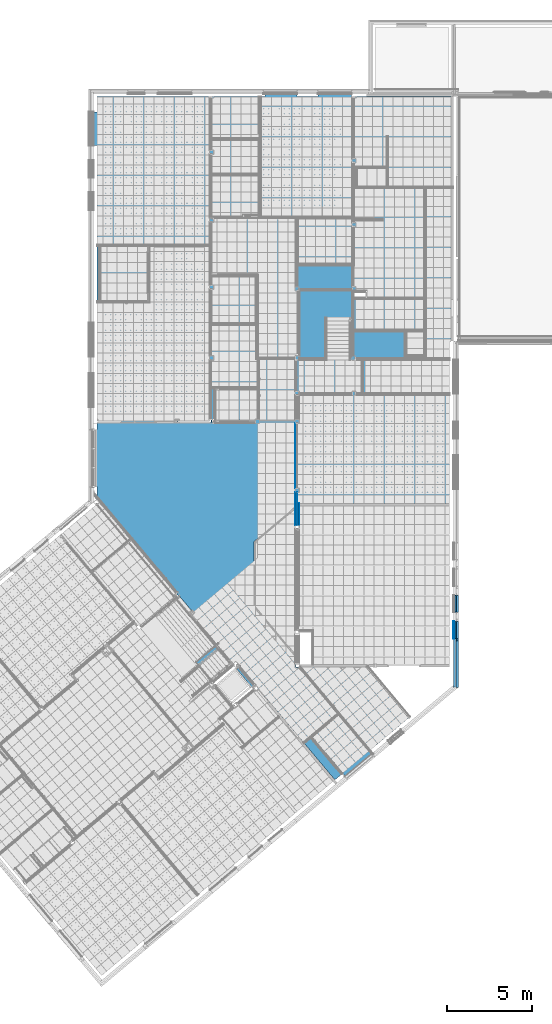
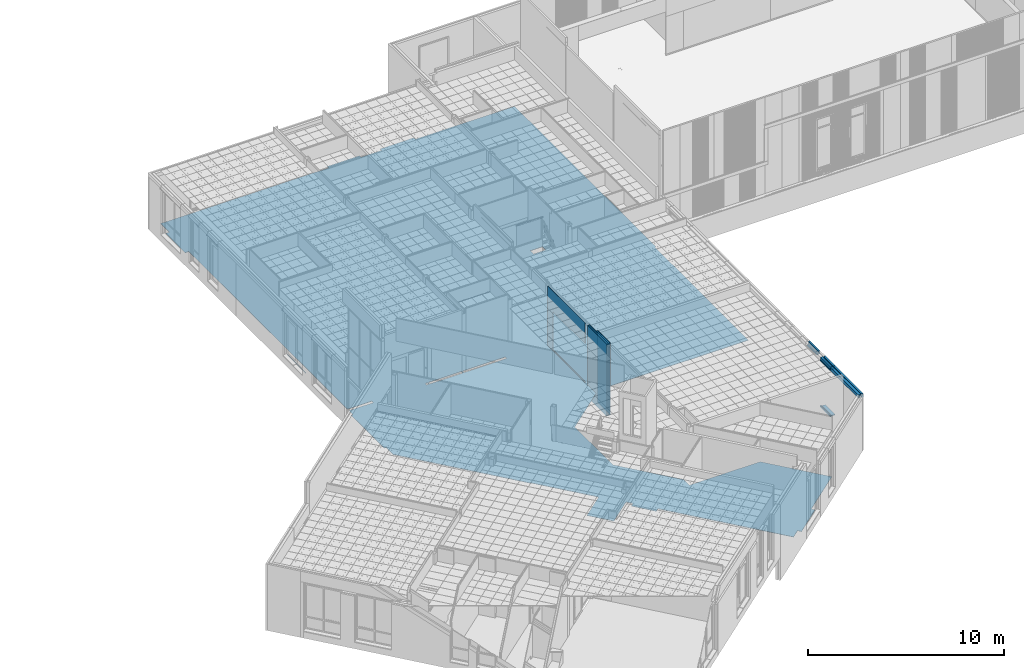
# One storey, part 73 of 338: 24 building element parts, 2 openings, 8 elements without a shape of their own.
"""IFC2X3 building model written with IfcOpenShell, lengths in millimetres."""

from ifc_helpers import new_model, entity, si_unit, converted_unit, derived_unit, money_unit, direction, frame, origin_with_axes, place, context, subcontext, project, spatial, faceted_brep, material, type_object, element, aggregate, save


model = new_model("IFC2X3")

# Units and contexts
model_context = context("Model", 3, precision=0.01, world=origin_with_axes(), true_north=direction((0.0, 1.0)))
plan_context = context("Plan", 3, precision=0.01, world=origin_with_axes(), true_north=direction((0.0, 1.0)))
body_context = subcontext(model_context, "Body", "Model", "MODEL_VIEW")
ifc_project = project(units=[si_unit("LENGTHUNIT", "METRE", prefix="MILLI"), si_unit("AREAUNIT", "SQUARE_METRE"), si_unit("VOLUMEUNIT", "CUBIC_METRE"), converted_unit("PLANEANGLEUNIT", "DEGREE", entity("IfcPlaneAngleMeasure", 0.0174532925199), si_unit("PLANEANGLEUNIT", "RADIAN"), dimensions=[0, 0, 0, 0, 0, 0, 0]), money_unit("EUR"), converted_unit("TIMEUNIT", "Year", entity("IfcTimeMeasure", 31556926.0), si_unit("TIMEUNIT", "SECOND"), dimensions=[0, 0, 1, 0, 0, 0, 0]), si_unit("MASSUNIT", "GRAM", prefix="KILO"), si_unit("THERMODYNAMICTEMPERATUREUNIT", "DEGREE_CELSIUS"), si_unit("LUMINOUSINTENSITYUNIT", "LUMEN"), si_unit("ENERGYUNIT", "JOULE", prefix="MEGA"), derived_unit("THERMALCONDUCTANCEUNIT", [(si_unit("POWERUNIT", "WATT"), 1), (si_unit("LENGTHUNIT", "METRE"), -1), (si_unit("THERMODYNAMICTEMPERATUREUNIT", "KELVIN"), -1)]), derived_unit("SPECIFICHEATCAPACITYUNIT", [(si_unit("ENERGYUNIT", "JOULE"), 1), (si_unit("MASSUNIT", "GRAM", prefix="KILO"), -1), (si_unit("THERMODYNAMICTEMPERATUREUNIT", "KELVIN"), -1)]), derived_unit("MASSDENSITYUNIT", [(si_unit("MASSUNIT", "GRAM", prefix="KILO"), 1), (si_unit("VOLUMEUNIT", "CUBIC_METRE"), -1)])], contexts=[model_context, plan_context])

# Site, building, storey
site_placement = place(None, origin_with_axes())
site = spatial("IfcSite", under=ifc_project, at=site_placement, Name="Fortuinstraat Woensdrecht", CompositionType="ELEMENT")
building_placement = place(site_placement, origin_with_axes())
building = spatial("IfcBuilding", under=site, at=building_placement, Name="IKC Fortuna", CompositionType="ELEMENT")
storey_placement = place(building_placement, origin_with_axes())
storey = spatial("IfcBuildingStorey", under=building, at=storey_placement, Name="00 begane grond", CompositionType="ELEMENT", Elevation=0.0)

# Covering, building element part
covering_type_1 = type_object("IfcCoveringType", Name="43 Vloerafwerking 90", PredefinedType="FLOORING")
covering_1_placement = place(storey_placement, frame((13809.4349765, 22304.4319404, 0.0), z_axis=(0.0, 0.0, 1.0), x_axis=(1.0, 0.0, 0.0)))
covering_1 = element("IfcCovering", 1, at=covering_1_placement, inside=storey, type_object=covering_type_1, Name="43_Vloerafwerking_Vloerafwerking", PredefinedType="FLOORING")
ifc_material_1 = material(Name="Isolatie - XPS zwevende dekvloer")
building_element_part_1_placement = place(covering_1_placement, origin_with_axes())
building_element_part_1 = element("IfcBuildingElementPart", 2, at=building_element_part_1_placement, material=ifc_material_1, Name="Isolatie - XPS zwevende dekvloer", context=body_context, shape_type="Brep", body=[
    faceted_brep([(-2.19202433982e-09, -6197.13531215, -90.0), (1435.99999998, -6197.13531215, -90.0), (1435.99999998, -6047.13531215, -90.0), (-2.99316127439e-09, -6047.13531215, -90.0), (-2.35544916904e-08, -2200.0, -90.0), (0.0, 0.0, -90.0), (0.0, 4487.8571149, -90.0), (0.0, 6687.8571149, -90.0), (0.0, 9987.8571149, -90.0), (0.0, 10163.8646686, -90.0), (-214.0, 10163.8646686, -90.0), (-214.0, 12149.8646686, -90.0), (0.0, 12149.8646686, -90.0), (0.0, 12186.5169343, -90.0), (-5.68434188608e-10, 13041.8646879, -90.0), (9904.99999998, 13041.8646879, -90.0), (9904.99999998, 13191.8646878, -90.0), (11803.9999401, 13191.8646879, -90.0), (11803.9999401, 13041.8646879, -90.0), (12105.0, 13041.8646879, -90.0), (12820.0, 13041.8646879, -90.0), (13027.9999569, 13041.8646879, -90.0), (13027.9999569, 13191.8646879, -90.0), (15010.0, 13191.8646878, -90.0), (15010.0, 13041.8646879, -90.0), (20873.9920806, 13041.8646879, -90.0), (20873.9920806, -1392.13531213, -90.0), (20809.9920806, -1392.13531213, -90.0), (20809.9920806, -1436.13531213, -90.0), (20809.9920806, -10962.1353121, -90.0), (11813.6, -10962.1353121, -90.0), (11813.6, -11076.1763067, -90.0), (9261.72474235, -13217.4538942, -90.0), (9261.72474235, -17102.6368853, -90.0), (11734.7717252, -20049.8995118, -90.0), (11734.6923271, -20626.8332648, -90.0), (11911.0, -20626.8462169, -90.0), (11911.0, -20627.1353121, -90.0), (15911.5110293, -20627.1353121, -90.0), (18414.92724, -23610.5953702, -90.0), (16071.7931354, -25576.7183331, -90.0), (16062.60059, -25584.4317946, -90.0), (16200.1571385, -25748.3653054, -90.0), (14629.7662337, -27066.0797344, -90.0), (14492.2096852, -26902.1462236, -90.0), (14483.0171497, -26909.8596767, -90.0), (14032.6164397, -27287.7907464, -90.0), (9296.55733488, -21643.5752935, -90.0), (9112.70480883, -21797.8468922, -90.0), (8237.22471445, -20754.4971884, -90.0), (8421.0768867, -20600.2258866, -90.0), (8183.27030727, -20316.8114787, -90.0), (8137.25555115, -20355.4214133, -90.0), (8133.70112309, -20351.1852979, -90.0), (6800.82062201, -21469.5749881, -90.0), (5857.84999487, -20345.7863555, -90.0), (7190.74526344, -19227.3842742, -90.0), (4810.99256974, -16391.2297651, -90.0), (4789.90741899, -16408.9218352, -90.0), (0.0, -10700.3801197, -90.0), (-2.35544916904e-08, -9994.9213508, -90.0), (-2.35544916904e-08, -9973.18777013, -90.0), (-106.0, -9973.18777013, -90.0), (-106.0, -6607.15512454, -90.0), (0.0, -6607.15512454, -90.0), (15842.5, 1180.08160797, -90.0), (15842.5, 1500.36468787, -90.0), (15142.5, 1500.36468787, -90.0), (15142.5, 1180.08160797, -90.0), (4710.31885377, -6197.13531215, -90.0), (4710.31885377, -6047.13531215, -90.0), (4580.31885377, -6047.13531215, -90.0), (4580.31885377, -6197.13531215, -90.0), (4755.31885377, -6047.13531215, -90.0), (4755.31885377, -6197.13531215, -90.0), (6729.99999998, -6197.13531215, -90.0), (6729.99999998, -6047.13531215, -90.0), (9305.99999998, -6047.13531215, -90.0), (6789.99999998, -6047.13531215, -90.0), (6789.99999998, -6197.13531215, -90.0), (9305.99999998, -6197.13531215, -90.0), (1435.99999998, -6197.13531215, -70.0), (-2.19202433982e-09, -6197.13531215, -70.0), (1435.99999998, -6047.13531215, -70.0), (-2.99316127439e-09, -6047.13531215, -70.0), (-2.35544916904e-08, -2200.0, -70.0), (0.0, 0.0, -70.0), (0.0, 4487.8571149, -70.0), (0.0, 6687.8571149, -70.0), (0.0, 9987.8571149, -70.0), (0.0, 10163.8646686, -70.0), (-214.0, 10163.8646686, -70.0), (-214.0, 12149.8646686, -70.0), (0.0, 12149.8646686, -70.0), (0.0, 12186.5169343, -70.0), (-5.68434188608e-10, 13041.8646879, -70.0), (9904.99999998, 13041.8646879, -70.0), (9904.99999998, 13191.8646878, -70.0), (11803.9999401, 13191.8646879, -70.0), (11803.9999401, 13041.8646879, -70.0), (12105.0, 13041.8646879, -70.0), (12820.0, 13041.8646879, -70.0), (13027.9999569, 13041.8646879, -70.0), (13027.9999569, 13191.8646879, -70.0), (15010.0, 13191.8646878, -70.0), (15010.0, 13041.8646879, -70.0), (20873.9920806, 13041.8646879, -70.0), (20873.9920806, -1392.13531213, -70.0), (20809.9920806, -1392.13531213, -70.0), (20809.9920806, -1436.13531213, -70.0), (20809.9920806, -10962.1353121, -70.0), (11813.6, -10962.1353121, -70.0), (11813.6, -11076.1763067, -70.0), (9261.72474235, -13217.4538942, -70.0), (9261.72474235, -17102.6368853, -70.0), (11734.7717252, -20049.8995118, -70.0), (11734.6923271, -20626.8332648, -70.0), (11911.0, -20626.8462169, -70.0), (11911.0, -20627.1353121, -70.0), (15911.5110293, -20627.1353121, -70.0), (18414.92724, -23610.5953702, -70.0), (16071.7931354, -25576.7183331, -70.0), (16062.60059, -25584.4317946, -70.0), (16200.1571385, -25748.3653054, -70.0), (14629.7662337, -27066.0797344, -70.0), (14492.2096852, -26902.1462236, -70.0), (14483.0171497, -26909.8596767, -70.0), (14032.6164397, -27287.7907464, -70.0), (9296.55733488, -21643.5752935, -70.0), (9112.70480883, -21797.8468922, -70.0), (8237.22471445, -20754.4971884, -70.0), (8421.0768867, -20600.2258866, -70.0), (8183.27030727, -20316.8114787, -70.0), (8137.25555115, -20355.4214133, -70.0), (8133.70112309, -20351.1852979, -70.0), (6800.82062201, -21469.5749881, -70.0), (5857.84999487, -20345.7863555, -70.0), (7190.74526344, -19227.3842742, -70.0), (4810.99256974, -16391.2297651, -70.0), (4789.90741899, -16408.9218352, -70.0), (0.0, -10700.3801197, -70.0), (-2.35544916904e-08, -9994.9213508, -70.0), (-2.35544916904e-08, -9973.18777013, -70.0), (-106.0, -9973.18777013, -70.0), (-106.0, -6607.15512454, -70.0), (0.0, -6607.15512454, -70.0), (15842.5, 1180.08160797, -70.0), (15842.5, 1500.36468787, -70.0), (15142.5, 1500.36468787, -70.0), (15142.5, 1180.08160797, -70.0), (4710.31885377, -6047.13531215, -70.0), (4710.31885377, -6197.13531215, -70.0), (4580.31885377, -6047.13531215, -70.0), (4580.31885377, -6197.13531215, -70.0), (4755.31885377, -6197.13531215, -70.0), (4755.31885377, -6047.13531215, -70.0), (6729.99999998, -6197.13531215, -70.0), (6729.99999998, -6047.13531215, -70.0), (6789.99999998, -6047.13531215, -70.0), (9305.99999998, -6047.13531215, -70.0), (6789.99999998, -6197.13531215, -70.0), (9305.99999998, -6197.13531215, -70.0)], [[[0, 1, 2, 3, 4, 5, 6, 7, 8, 9, 10, 11, 12, 13, 14, 15, 16, 17, 18, 19, 20, 21, 22, 23, 24, 25, 26, 27, 28, 29, 30, 31, 32, 33, 34, 35, 36, 37, 38, 39, 40, 41, 42, 43, 44, 45, 46, 47, 48, 49, 50, 51, 52, 53, 54, 55, 56, 57, 58, 59, 60, 61, 62, 63, 64], [65, 66, 67, 68], [69, 70, 71, 72], [73, 74, 75, 76], [77, 78, 79, 80]], [[81, 1, 0, 82]], [[83, 2, 1, 81]], [[84, 3, 2, 83]], [[84, 85, 4, 3]], [[86, 5, 4, 85]], [[86, 87, 6, 5]], [[88, 7, 6, 87]], [[8, 7, 88, 89]], [[90, 9, 8, 89]], [[91, 10, 9, 90]], [[11, 10, 91, 92]], [[93, 12, 11, 92]], [[94, 13, 12, 93]], [[94, 95, 14, 13]], [[15, 14, 95, 96]], [[16, 15, 96, 97]], [[17, 16, 97, 98]], [[98, 99, 18, 17]], [[100, 19, 18, 99]], [[100, 101, 20, 19]], [[102, 21, 20, 101]], [[103, 22, 21, 102]], [[103, 104, 23, 22]], [[24, 23, 104, 105]], [[25, 24, 105, 106]], [[26, 25, 106, 107]], [[107, 108, 27, 26]], [[109, 28, 27, 108]], [[109, 110, 29, 28]], [[30, 29, 110, 111]], [[31, 30, 111, 112]], [[32, 31, 112, 113]], [[33, 32, 113, 114]], [[34, 33, 114, 115]], [[35, 34, 115, 116]], [[36, 35, 116, 117]], [[117, 118, 37, 36]], [[119, 38, 37, 118]], [[119, 120, 39, 38]], [[40, 39, 120, 121]], [[121, 122, 41, 40]], [[123, 42, 41, 122]], [[123, 124, 43, 42]], [[124, 125, 44, 43]], [[126, 45, 44, 125]], [[126, 127, 46, 45]], [[47, 46, 127, 128]], [[48, 47, 128, 129]], [[49, 48, 129, 130]], [[50, 49, 130, 131]], [[51, 50, 131, 132]], [[52, 51, 132, 133]], [[53, 52, 133, 134]], [[54, 53, 134, 135]], [[135, 136, 55, 54]], [[136, 137, 56, 55]], [[57, 56, 137, 138]], [[58, 57, 138, 139]], [[59, 58, 139, 140]], [[60, 59, 140, 141]], [[142, 61, 60, 141]], [[143, 62, 61, 142]], [[143, 144, 63, 62]], [[64, 63, 144, 145]], [[0, 64, 145, 82]], [[66, 65, 146, 147]], [[67, 66, 147, 148]], [[68, 67, 148, 149]], [[65, 68, 149, 146]], [[150, 70, 69, 151]], [[152, 71, 70, 150]], [[153, 72, 71, 152]], [[151, 69, 72, 153]], [[154, 74, 73, 155]], [[156, 75, 74, 154]], [[157, 76, 75, 156]], [[155, 73, 76, 157]], [[158, 78, 77, 159]], [[160, 79, 78, 158]], [[161, 80, 79, 160]], [[159, 77, 80, 161]], [[85, 84, 83, 81, 82, 145, 144, 143, 142, 141, 140, 139, 138, 137, 136, 135, 134, 133, 132, 131, 130, 129, 128, 127, 126, 125, 124, 123, 122, 121, 120, 119, 118, 117, 116, 115, 114, 113, 112, 111, 110, 109, 108, 107, 106, 105, 104, 103, 102, 101, 100, 99, 98, 97, 96, 95, 94, 93, 92, 91, 90, 89, 88, 87, 86], [146, 149, 148, 147], [152, 150, 151, 153], [155, 157, 156, 154], [158, 159, 161, 160]]]),
    faceted_brep([(-247.014541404, -292.155239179, -90.0), (-247.014541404, -292.155239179, -75.0), (-223.999719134, -292.155239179, -75.0), (-213.999718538, -292.155239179, -75.0), (-214.0, -292.155239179, -90.0), (-247.014541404, -2200.0, -75.0), (-247.014541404, -2200.0, -90.0), (-223.999718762, -2200.0, -75.0), (-213.999718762, -2200.0, -75.0), (-214.000000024, -2200.0, -90.0)], [[[0, 1, 2, 3, 4]], [[5, 1, 0, 6]], [[7, 2, 1, 5]], [[8, 3, 2, 7]], [[4, 3, 8, 9]], [[4, 9, 6, 0]], [[8, 7, 5, 6, 9]]]),
])
aggregate(covering_1, [building_element_part_1])

# Wall, openings, building element part
wall_type_1 = type_object("IfcWallType", Name="MS125 2.75.2A 125", PredefinedType="NOTDEFINED")
wall_1_placement = place(storey_placement, frame((25497.9349765, 16059.7966283, -90.0), z_axis=(0.0, 0.0, 1.0), x_axis=(0.0, -1.0, 0.0)))
wall_1 = element("IfcWall", 3, at=wall_1_placement, inside=storey, type_object=wall_type_1, Name="22_Wand_Binnenwand")
opening_1_placement = place(wall_1_placement, frame((927.5, 0.0, 90.0), z_axis=(0.0, 0.0, 1.0), x_axis=(1.0, 0.0, 0.0)))
element("IfcOpeningElement", 4, at=opening_1_placement, cuts=wall_1, Name="32_Raam_h.11", context=body_context, shape_type="Brep", body=[
    faceted_brep([(-407.5, 11.0, 0.0), (-407.5, 11.0, 2367.0), (-407.5, 250.0, 2367.0), (-407.5, 250.0, 0.0), (407.5, 11.0, 0.0), (407.5, 11.0, 2367.0), (407.5, 250.0, 2367.0), (407.5, 250.0, 0.0)], [[[0, 1, 2, 3]], [[0, 4, 5, 1]], [[1, 5, 6, 2]], [[3, 2, 6, 7]], [[4, 0, 3, 7]], [[5, 4, 7, 6]]]),
    faceted_brep([(-407.5, 11.0, 2367.0), (-407.5, 11.0, 0.0), (-407.5, -125.0, 0.0), (-407.5, -125.0, 2367.0), (407.5, 11.0, 2367.0), (407.5, 11.0, 0.0), (407.5, -125.0, 0.0), (407.5, -125.0, 2367.0)], [[[0, 1, 2, 3]], [[0, 4, 5, 1]], [[1, 5, 6, 2]], [[3, 2, 6, 7]], [[4, 0, 3, 7]], [[5, 4, 7, 6]]]),
])
opening_2_placement = place(wall_1_placement, frame((2577.5, 0.0, 90.0), z_axis=(0.0, 0.0, 1.0), x_axis=(1.0, 0.0, 0.0)))
element("IfcOpeningElement", 5, at=opening_2_placement, cuts=wall_1, Name="32_Deur_h.03", context=body_context, shape_type="Brep", body=[
    faceted_brep([(1242.5, 125.0, 0.0), (1242.5, 125.0, 2367.0), (1242.5, -250.0, 2367.0), (1242.5, -250.0, 0.0), (-1242.5, 125.0, 0.0), (-1242.5, 125.0, 2367.0), (-1242.5, -250.0, 2367.0), (-1242.5, -250.0, 0.0)], [[[0, 1, 2, 3]], [[0, 4, 5, 1]], [[1, 5, 6, 2]], [[3, 2, 6, 7]], [[4, 0, 3, 7]], [[5, 4, 7, 6]]]),
])
ifc_material_2 = material(Name="Gipsplaat")
building_element_part_2_placement = place(wall_1_placement, origin_with_axes())
building_element_part_2 = element("IfcBuildingElementPart", 6, at=building_element_part_2_placement, material=ifc_material_2, Name="Gipsplaat", context=body_context, shape_type="Brep", body=[
    faceted_brep([(1335.0, 0.0, 90.0), (3820.0, 0.0, 90.0), (3820.0, 12.5, 90.0), (1335.0, 12.5, 90.0), (520.0, 12.5, 90.0), (520.0, 0.0, 90.0), (1335.0, 0.0, 2457.0), (3820.0, 0.0, 2457.0), (3820.0, 0.0, 3740.0), (0.0, 0.0, 3740.0), (0.0, 0.0, 0.0), (3820.0, 0.0, 0.0), (520.0, 0.0, 2457.0), (3820.0, 12.5, 0.0), (3820.0, 12.5, 2457.0), (1335.0, 12.5, 2457.0), (520.0, 12.5, 2457.0), (0.0, 12.5, 0.0), (0.0, 12.5, 3740.0), (3820.0, 12.5, 3740.0)], [[[0, 1, 2, 3, 4, 5]], [[6, 7, 8, 9, 10, 11, 1, 0, 5, 12]], [[2, 1, 11, 13]], [[14, 15, 16, 4, 3, 2, 13, 17, 18, 19]], [[4, 16, 12, 5]], [[15, 14, 7, 6, 12, 16]], [[7, 14, 19, 8]], [[9, 8, 19, 18]], [[10, 9, 18, 17]], [[17, 13, 11, 10]]]),
])
aggregate(wall_1, [building_element_part_2])

# Wall, building element parts
wall_2_placement = place(storey_placement, frame((25497.9349765, 11994.7966283, -835.0), z_axis=(0.0, 0.0, 1.0), x_axis=(0.0, -1.0, 0.0)))
wall_2 = element("IfcWall", 7, at=wall_2_placement, inside=storey, type_object=wall_type_1, Name="22_Wand_Binnenwand")
building_element_part_3_placement = place(wall_2_placement, origin_with_axes())
building_element_part_3 = element("IfcBuildingElementPart", 8, at=building_element_part_3_placement, material=ifc_material_2, Name="Gipsplaat", context=body_context, shape_type="Brep", body=[
    faceted_brep([(1935.0, 112.5, 4485.0), (1935.0, 125.0, 4485.0), (0.0, 125.0, 4485.0), (0.0, 112.5, 4485.0), (1935.0, 112.5, 0.0), (1935.0, 125.0, 0.0), (0.0, 125.0, 0.0), (0.0, 112.5, 0.0)], [[[0, 1, 2, 3]], [[0, 4, 5, 1]], [[1, 5, 6, 2]], [[3, 2, 6, 7]], [[4, 0, 3, 7]], [[5, 4, 7, 6]]]),
])
building_element_part_4_placement = place(wall_2_placement, origin_with_axes())
building_element_part_4 = element("IfcBuildingElementPart", 9, at=building_element_part_4_placement, material=ifc_material_2, Name="Gipsplaat", context=body_context, shape_type="Brep", body=[
    faceted_brep([(1935.0, 100.0, 4485.0), (1935.0, 112.5, 4485.0), (0.0, 112.5, 4485.0), (0.0, 100.0, 4485.0), (1935.0, 100.0, 0.0), (1935.0, 112.5, 0.0), (0.0, 112.5, 0.0), (0.0, 100.0, 0.0)], [[[0, 1, 2, 3]], [[0, 4, 5, 1]], [[1, 5, 6, 2]], [[3, 2, 6, 7]], [[4, 0, 3, 7]], [[5, 4, 7, 6]]]),
])
ifc_material_3 = material(Name="Isolatie - Steenwol LSW")
building_element_part_5_placement = place(wall_2_placement, origin_with_axes())
building_element_part_5 = element("IfcBuildingElementPart", 10, at=building_element_part_5_placement, material=ifc_material_3, Name="Isolatie - Steenwol LSW", context=body_context, shape_type="Brep", body=[
    faceted_brep([(1935.0, 25.0, 4485.0), (1935.0, 100.0, 4485.0), (0.0, 100.0, 4485.0), (0.0, 25.0, 4485.0), (1935.0, 25.0, 0.0), (1935.0, 100.0, 0.0), (0.0, 100.0, 0.0), (0.0, 25.0, 0.0)], [[[0, 1, 2, 3]], [[0, 4, 5, 1]], [[1, 5, 6, 2]], [[3, 2, 6, 7]], [[4, 0, 3, 7]], [[5, 4, 7, 6]]]),
])
building_element_part_6_placement = place(wall_2_placement, origin_with_axes())
building_element_part_6 = element("IfcBuildingElementPart", 11, at=building_element_part_6_placement, material=ifc_material_2, Name="Gipsplaat", context=body_context, shape_type="Brep", body=[
    faceted_brep([(1935.0, 12.5, 4485.0), (1935.0, 25.0, 4485.0), (0.0, 25.0, 4485.0), (0.0, 12.5, 4485.0), (1935.0, 12.5, 0.0), (1935.0, 25.0, 0.0), (0.0, 25.0, 0.0), (0.0, 12.5, 0.0)], [[[0, 1, 2, 3]], [[0, 4, 5, 1]], [[1, 5, 6, 2]], [[3, 2, 6, 7]], [[4, 0, 3, 7]], [[5, 4, 7, 6]]]),
])
building_element_part_7_placement = place(wall_2_placement, origin_with_axes())
building_element_part_7 = element("IfcBuildingElementPart", 12, at=building_element_part_7_placement, material=ifc_material_2, Name="Gipsplaat", context=body_context, shape_type="Brep", body=[
    faceted_brep([(1935.0, 0.0, 4485.0), (1935.0, 12.5, 4485.0), (0.0, 12.5, 4485.0), (0.0, 0.0, 4485.0), (1935.0, 0.0, 0.0), (1935.0, 12.5, 0.0), (0.0, 12.5, 0.0), (0.0, 0.0, 0.0)], [[[0, 1, 2, 3]], [[0, 4, 5, 1]], [[1, 5, 6, 2]], [[3, 2, 6, 7]], [[4, 0, 3, 7]], [[5, 4, 7, 6]]]),
])
aggregate(wall_2, [building_element_part_3, building_element_part_4, building_element_part_5, building_element_part_6, building_element_part_7])

# Covering, building element parts
covering_type_2 = type_object("IfcCoveringType", Name="41 Latei MW rollaag 280 x 227", PredefinedType="NOTDEFINED")
covering_2_placement = place(storey_placement, frame((34973.4270641, 4373.29662827, 2800.0), z_axis=(0.0, 0.0, 1.0), x_axis=(0.0, -1.0, 0.0)))
covering_2 = element("IfcCovering", 13, at=covering_2_placement, inside=storey, type_object=covering_type_2, Name="41_Afwerking_Latei + rollaag", PredefinedType="NOTDEFINED")
ifc_material_4 = material(Name="Metaal - Staal C")
building_element_part_8_placement = place(covering_2_placement, origin_with_axes())
building_element_part_8 = element("IfcBuildingElementPart", 14, at=building_element_part_8_placement, material=ifc_material_4, Name="Metaal - Staal C", context=body_context, shape_type="Brep", body=[
    faceted_brep([(1010.0, 135.215535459, -8.0), (1010.0, 115.215535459, -4.0), (0.0, 115.215535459, -4.0), (0.0, 135.215535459, -8.0), (1010.0, 136.0, -4.07767729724), (1010.0, 115.609685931, 0.0), (1010.0, 40.0, 0.0), (1010.0, 37.1715728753, 1.17157287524), (1010.0, 36.0000000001, 3.99999999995), (1010.0, 36.0000000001, 106.530733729), (1010.0, 20.8284271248, 121.828427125), (1010.0, 18.0000000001, 119.0), (1010.0, 32.0, 105.0), (1010.0, 32.0, 4.0), (1010.0, 32.0, 0.0), (1010.0, 33.1715728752, -2.82842712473), (1010.0, 36.0, -4.0), (0.0, 36.0, -4.0), (0.0, 33.1715728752, -2.82842712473), (0.0, 32.0, 0.0), (0.0, 32.0, 4.0), (0.0, 32.0, 105.0), (0.0, 18.0000000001, 119.0), (0.0, 20.8284271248, 121.828427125), (0.0, 36.0000000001, 106.530733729), (0.0, 36.0000000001, 3.99999999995), (0.0, 37.1715728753, 1.17157287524), (0.0, 40.0, 0.0), (0.0, 115.609685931, 0.0), (0.0, 136.0, -4.07767729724)], [[[0, 1, 2, 3]], [[0, 4, 5, 6, 7, 8, 9, 10, 11, 12, 13, 14, 15, 16, 1]], [[1, 16, 17, 2]], [[3, 2, 17, 18, 19, 20, 21, 22, 23, 24, 25, 26, 27, 28, 29]], [[4, 0, 3, 29]], [[5, 4, 29, 28]], [[6, 5, 28, 27]], [[7, 6, 27, 26]], [[8, 7, 26, 25]], [[9, 8, 25, 24]], [[10, 9, 24, 23]], [[11, 10, 23, 22]], [[12, 11, 22, 21]], [[13, 12, 21, 20]], [[14, 13, 20, 19]], [[15, 14, 19, 18]], [[16, 15, 18, 17]]]),
])
ifc_material_5 = material(Name="Steen - Baksteen Accent Rollaag")
building_element_part_9_placement = place(covering_2_placement, origin_with_axes())
building_element_part_9 = element("IfcBuildingElementPart", 15, at=building_element_part_9_placement, material=ifc_material_5, Name="Steen - Baksteen Accent Rollaag", context=body_context, shape_type="Brep", body=[
    faceted_brep([(0.0, 40.0, 200.0), (0.0, 119.999993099, 200.0), (0.0, 119.999993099, 204.0), (0.0, 118.242633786, 208.242640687), (0.0, 113.999993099, 210.0), (0.0, 140.0, 210.0), (0.0, 140.0, 0.0), (0.0, 115.609685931, 0.0), (0.0, 40.0, 0.0), (1010.0, 40.0, 200.0), (1010.0, 119.999993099, 200.0), (1010.0, 119.999993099, 204.0), (1010.0, 118.242633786, 208.242640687), (1010.0, 113.999993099, 210.0), (1010.0, 140.0, 210.0), (1010.0, 140.0, 0.0), (1010.0, 115.609685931, 0.0), (1010.0, 40.0, 0.0)], [[[0, 1, 2, 3, 4, 5, 6, 7, 8]], [[1, 0, 9, 10]], [[2, 1, 10, 11]], [[3, 2, 11, 12]], [[4, 3, 12, 13]], [[4, 13, 14, 5]], [[5, 14, 15, 6]], [[6, 15, 16, 7]], [[7, 16, 17, 8]], [[9, 0, 8, 17]], [[10, 9, 17, 16, 15, 14, 13, 12, 11]]]),
])
ifc_material_6 = material(Name="Metaal - Staal AFW")
building_element_part_10_placement = place(covering_2_placement, origin_with_axes())
building_element_part_10 = element("IfcBuildingElementPart", 16, at=building_element_part_10_placement, material=ifc_material_6, Name="Metaal - Staal AFW", context=body_context, shape_type="Brep", body=[
    faceted_brep([(1010.0, 32.0, 4.0), (1010.0, 32.0, 0.0), (0.0, 32.0, 0.0), (0.0, 32.0, 4.0), (1010.0, -58.0, 4.0), (1010.0, -58.0, 0.0), (0.0, -58.0, 0.0), (0.0, -58.0, 4.0)], [[[0, 1, 2, 3]], [[0, 4, 5, 1]], [[1, 5, 6, 2]], [[3, 2, 6, 7]], [[4, 0, 3, 7]], [[5, 4, 7, 6]]]),
])
ifc_material_7 = material(Name="ALG - ISOLATIE")
building_element_part_11_placement = place(covering_2_placement, origin_with_axes())
building_element_part_11 = element("IfcBuildingElementPart", 17, at=building_element_part_11_placement, material=ifc_material_7, Name="ALG - ISOLATIE", context=body_context, shape_type="Brep", body=[
    faceted_brep([(1010.0, -140.0, 53.0), (1010.0, -140.0, 210.0), (0.0, -140.0, 210.0), (0.0, -140.0, 53.0), (1010.0, -83.9999988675, 53.0000013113), (1010.0, 0.0, 53.0), (1010.0, 0.0, 210.0), (0.0, 0.0, 210.0), (0.0, 0.0, 53.0), (0.0, -83.9999988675, 53.0000013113)], [[[0, 1, 2, 3]], [[0, 4, 5, 6, 1]], [[1, 6, 7, 2]], [[3, 2, 7, 8, 9]], [[4, 0, 3, 9]], [[5, 4, 9, 8]], [[6, 5, 8, 7]]]),
])
ifc_material_8 = material(Name="Hout AFW")
building_element_part_12_placement = place(covering_2_placement, origin_with_axes())
building_element_part_12 = element("IfcBuildingElementPart", 18, at=building_element_part_12_placement, material=ifc_material_8, Name="Hout AFW", context=body_context, shape_type="Brep", body=[
    faceted_brep([(1010.0, -127.999998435, 53.0000013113), (1010.0, -83.9999988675, 53.0000013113), (0.0, -83.9999988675, 53.0000013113), (0.0, -127.999998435, 53.0000013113), (1010.0, -127.999998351, -1.28576260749e-07), (1010.0, -127.999998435, -17.0), (1010.0, -83.9999988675, -17.0), (0.0, -83.9999988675, -17.0), (0.0, -127.999998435, -17.0), (0.0, -127.999998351, -1.28576260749e-07)], [[[0, 1, 2, 3]], [[0, 4, 5, 6, 1]], [[1, 6, 7, 2]], [[3, 2, 7, 8, 9]], [[4, 0, 3, 9]], [[5, 4, 9, 8]], [[6, 5, 8, 7]]]),
])
ifc_material_9 = material(Name="Isolatie - PUR gespoten")
building_element_part_13_placement = place(covering_2_placement, origin_with_axes())
building_element_part_13 = element("IfcBuildingElementPart", 19, at=building_element_part_13_placement, material=ifc_material_9, Name="Isolatie - PUR gespoten", context=body_context, shape_type="Brep", body=[
    faceted_brep([(1010.0, -139.999999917, 53.0000002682), (1010.0, -127.999998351, 53.0000013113), (0.0, -127.999998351, 53.0000013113), (0.0, -139.999999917, 53.0000002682), (1010.0, -139.999999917, -1.28576260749e-07), (1010.0, -127.999998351, -1.28576260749e-07), (0.0, -127.999998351, -1.28576260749e-07), (0.0, -139.999999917, -1.28576260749e-07)], [[[0, 1, 2, 3]], [[0, 4, 5, 1]], [[1, 5, 6, 2]], [[3, 2, 6, 7]], [[4, 0, 3, 7]], [[5, 4, 7, 6]]]),
])
aggregate(covering_2, [building_element_part_8, building_element_part_9, building_element_part_10, building_element_part_11, building_element_part_12, building_element_part_13])

covering_3_placement = place(storey_placement, frame((34973.4270641, 5923.29662827, 2800.0), z_axis=(0.0, 0.0, 1.0), x_axis=(0.0, -1.0, 0.0)))
covering_3 = element("IfcCovering", 20, at=covering_3_placement, inside=storey, type_object=covering_type_2, Name="41_Afwerking_Latei + rollaag", PredefinedType="NOTDEFINED")
building_element_part_14_placement = place(covering_3_placement, origin_with_axes())
building_element_part_14 = element("IfcBuildingElementPart", 21, at=building_element_part_14_placement, material=ifc_material_4, Name="Metaal - Staal C", context=body_context, shape_type="Brep", body=[
    faceted_brep([(1010.0, 135.215535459, -8.0), (1010.0, 115.215535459, -4.0), (0.0, 115.215535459, -4.0), (0.0, 135.215535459, -8.0), (1010.0, 136.0, -4.07767729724), (1010.0, 115.609685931, 0.0), (1010.0, 40.0, 0.0), (1010.0, 37.1715728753, 1.17157287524), (1010.0, 36.0000000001, 3.99999999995), (1010.0, 36.0000000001, 106.530733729), (1010.0, 20.8284271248, 121.828427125), (1010.0, 18.0000000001, 119.0), (1010.0, 32.0, 105.0), (1010.0, 32.0, 4.0), (1010.0, 32.0, 0.0), (1010.0, 33.1715728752, -2.82842712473), (1010.0, 36.0, -4.0), (0.0, 36.0, -4.0), (0.0, 33.1715728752, -2.82842712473), (0.0, 32.0, 0.0), (0.0, 32.0, 4.0), (0.0, 32.0, 105.0), (0.0, 18.0000000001, 119.0), (0.0, 20.8284271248, 121.828427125), (0.0, 36.0000000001, 106.530733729), (0.0, 36.0000000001, 3.99999999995), (0.0, 37.1715728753, 1.17157287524), (0.0, 40.0, 0.0), (0.0, 115.609685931, 0.0), (0.0, 136.0, -4.07767729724)], [[[0, 1, 2, 3]], [[0, 4, 5, 6, 7, 8, 9, 10, 11, 12, 13, 14, 15, 16, 1]], [[1, 16, 17, 2]], [[3, 2, 17, 18, 19, 20, 21, 22, 23, 24, 25, 26, 27, 28, 29]], [[4, 0, 3, 29]], [[5, 4, 29, 28]], [[6, 5, 28, 27]], [[7, 6, 27, 26]], [[8, 7, 26, 25]], [[9, 8, 25, 24]], [[10, 9, 24, 23]], [[11, 10, 23, 22]], [[12, 11, 22, 21]], [[13, 12, 21, 20]], [[14, 13, 20, 19]], [[15, 14, 19, 18]], [[16, 15, 18, 17]]]),
])
building_element_part_15_placement = place(covering_3_placement, origin_with_axes())
building_element_part_15 = element("IfcBuildingElementPart", 22, at=building_element_part_15_placement, material=ifc_material_5, Name="Steen - Baksteen Accent Rollaag", context=body_context, shape_type="Brep", body=[
    faceted_brep([(0.0, 40.0, 200.0), (0.0, 119.999993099, 200.0), (0.0, 119.999993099, 204.0), (0.0, 118.242633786, 208.242640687), (0.0, 113.999993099, 210.0), (0.0, 140.0, 210.0), (0.0, 140.0, 0.0), (0.0, 115.609685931, 0.0), (0.0, 40.0, 0.0), (1010.0, 40.0, 200.0), (1010.0, 119.999993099, 200.0), (1010.0, 119.999993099, 204.0), (1010.0, 118.242633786, 208.242640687), (1010.0, 113.999993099, 210.0), (1010.0, 140.0, 210.0), (1010.0, 140.0, 0.0), (1010.0, 115.609685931, 0.0), (1010.0, 40.0, 0.0)], [[[0, 1, 2, 3, 4, 5, 6, 7, 8]], [[1, 0, 9, 10]], [[2, 1, 10, 11]], [[3, 2, 11, 12]], [[4, 3, 12, 13]], [[4, 13, 14, 5]], [[5, 14, 15, 6]], [[6, 15, 16, 7]], [[7, 16, 17, 8]], [[9, 0, 8, 17]], [[10, 9, 17, 16, 15, 14, 13, 12, 11]]]),
])
building_element_part_16_placement = place(covering_3_placement, origin_with_axes())
building_element_part_16 = element("IfcBuildingElementPart", 23, at=building_element_part_16_placement, material=ifc_material_6, Name="Metaal - Staal AFW", context=body_context, shape_type="Brep", body=[
    faceted_brep([(1010.0, 32.0, 4.0), (1010.0, 32.0, 0.0), (0.0, 32.0, 0.0), (0.0, 32.0, 4.0), (1010.0, -58.0, 4.0), (1010.0, -58.0, 0.0), (0.0, -58.0, 0.0), (0.0, -58.0, 4.0)], [[[0, 1, 2, 3]], [[0, 4, 5, 1]], [[1, 5, 6, 2]], [[3, 2, 6, 7]], [[4, 0, 3, 7]], [[5, 4, 7, 6]]]),
])
aggregate(covering_3, [building_element_part_14, building_element_part_15, building_element_part_16])

covering_type_3 = type_object("IfcCoveringType", Name="41 Rollaag 280 x 210", PredefinedType="NOTDEFINED")
covering_4_placement = place(storey_placement, frame((34973.4270641, 3363.29662827, 2800.0), z_axis=(0.0, 0.0, 1.0), x_axis=(0.0, -1.0, 0.0)))
covering_4 = element("IfcCovering", 24, at=covering_4_placement, inside=storey, type_object=covering_type_3, Name="41_Afwerking_Rollaag", PredefinedType="NOTDEFINED")
building_element_part_17_placement = place(covering_4_placement, origin_with_axes())
building_element_part_17 = element("IfcBuildingElementPart", 25, at=building_element_part_17_placement, material=ifc_material_5, Name="Steen - Baksteen Accent Rollaag", context=body_context, shape_type="Brep", body=[
    faceted_brep([(0.0, 40.0, 200.0), (0.0, 119.999993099, 200.0), (0.0, 119.999993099, 204.0), (0.0, 118.242633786, 208.242640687), (0.0, 113.999993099, 210.0), (0.0, 140.0, 210.0), (0.0, 140.0, 0.0), (0.0, 40.0, 0.0), (137.726290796, 40.0, 200.0), (137.726290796, 119.999993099, 200.0), (137.726290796, 119.999993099, 204.0), (137.726290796, 118.242633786, 208.242640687), (137.726290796, 113.999993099, 210.0), (137.726290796, 41.999993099, 210.0), (137.726290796, 40.0, 210.0), (2890.11801684, 40.0, 210.0), (2890.11801684, 140.0, 210.0), (2890.11801684, 140.0, 0.0), (2890.11801684, 40.0, 0.0)], [[[0, 1, 2, 3, 4, 5, 6, 7]], [[1, 0, 8, 9]], [[2, 1, 9, 10]], [[3, 2, 10, 11]], [[4, 3, 11, 12]], [[13, 14, 15, 16, 5, 4, 12]], [[5, 16, 17, 6]], [[6, 17, 18, 7]], [[8, 0, 7, 18, 15, 14]], [[13, 12, 11, 10, 9, 8, 14]], [[15, 18, 17, 16]]]),
])
building_element_part_18_placement = place(covering_4_placement, origin_with_axes())
building_element_part_18 = element("IfcBuildingElementPart", 26, at=building_element_part_18_placement, material=ifc_material_7, Name="ALG - ISOLATIE", context=body_context, shape_type="Brep", body=[
    faceted_brep([(2890.11801684, -77.8013427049, 210.0), (2824.83493887, 0.0, 210.0), (0.0, 0.0, 210.0), (0.0, -140.0, 210.0), (2890.11801684, -140.0, 210.0), (2824.83493887, 0.0, 0.0), (2890.11801684, -77.8013427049, 0.0), (0.0, 0.0, 0.0), (0.0, -140.0, 0.0), (2890.11801684, -140.0, 0.0)], [[[0, 1, 2, 3, 4]], [[5, 1, 0, 6]], [[1, 5, 7, 2]], [[2, 7, 8, 3]], [[8, 9, 4, 3]], [[6, 0, 4, 9]], [[5, 6, 9, 8, 7]]]),
])
aggregate(covering_4, [building_element_part_17, building_element_part_18])

covering_type_4 = type_object("IfcCoveringType", Name="41 dorpel aan peil 280 x 75", PredefinedType="NOTDEFINED")
covering_5_placement = place(storey_placement, frame((34973.4267756, 4373.65066666, -2.5), z_axis=(0.0, 0.0, 1.0), x_axis=(0.0, -1.0, 0.0)))
covering_5 = element("IfcCovering", 27, at=covering_5_placement, inside=storey, type_object=covering_type_4, Name="41_Afwerking_Dorpel", PredefinedType="NOTDEFINED")
ifc_material_10 = material(Name="Steen - Kunststeen")
building_element_part_19_placement = place(covering_5_placement, origin_with_axes())
building_element_part_19 = element("IfcBuildingElementPart", 28, at=building_element_part_19_placement, material=ifc_material_10, Name="Steen - Kunststeen", context=body_context, shape_type="Brep", body=[
    faceted_brep([(1010.35403839, 140.0, -39.7722078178), (1010.35403839, 140.0, -72.5), (0.0, 140.0, -72.5), (0.0, 140.0, -39.7722078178), (1010.35403839, -82.0, -19.5865456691), (1010.35403839, -82.0, 2.5), (1010.35403839, -92.0, 2.5), (1010.35403839, -92.0, -72.5), (0.0, -92.0, -72.5), (0.0, -92.0, 2.5), (0.0, -82.0, 2.5), (0.0, -82.0, -19.5865456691)], [[[0, 1, 2, 3]], [[0, 4, 5, 6, 7, 1]], [[1, 7, 8, 2]], [[3, 2, 8, 9, 10, 11]], [[4, 0, 3, 11]], [[5, 4, 11, 10]], [[6, 5, 10, 9]], [[7, 6, 9, 8]]]),
])
building_element_part_20_placement = place(covering_5_placement, origin_with_axes())
building_element_part_20 = element("IfcBuildingElementPart", 29, at=building_element_part_20_placement, material=ifc_material_8, Name="Hout AFW", context=body_context, shape_type="Brep", body=[
    faceted_brep([(1010.35403839, -92.0000008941, 2.49999865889), (1010.35403839, -92.0000008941, -72.5), (0.0, -92.0000008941, -72.5), (0.0, -92.0000008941, 2.49999865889), (1010.35403839, -130.0, 2.49999865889), (1010.35403839, -130.0, -72.5), (0.0, -130.0, -72.5), (0.0, -130.0, 2.49999865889)], [[[0, 1, 2, 3]], [[0, 4, 5, 1]], [[1, 5, 6, 2]], [[3, 2, 6, 7]], [[4, 0, 3, 7]], [[5, 4, 7, 6]]]),
])
building_element_part_21_placement = place(covering_5_placement, origin_with_axes())
building_element_part_21 = element("IfcBuildingElementPart", 30, at=building_element_part_21_placement, material=ifc_material_9, Name="Isolatie - PUR gespoten", context=body_context, shape_type="Brep", body=[
    faceted_brep([(1010.35403839, -129.999999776, -72.5), (1010.35403839, -139.999999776, -72.5), (0.0, -139.999999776, -72.5), (0.0, -129.999999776, -72.5), (1010.35403839, -129.999999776, 2.49999888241), (1010.35403839, -139.999999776, 2.5), (0.0, -139.999999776, 2.5), (0.0, -129.999999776, 2.49999888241)], [[[0, 1, 2, 3]], [[0, 4, 5, 1]], [[1, 5, 6, 2]], [[3, 2, 6, 7]], [[4, 0, 3, 7]], [[5, 4, 7, 6]]]),
])
aggregate(covering_5, [building_element_part_19, building_element_part_20, building_element_part_21])

# Wall, building element parts
wall_type_2 = type_object("IfcWallType", Name="MS100 75.2A 100", PredefinedType="NOTDEFINED")
wall_3_placement = place(storey_placement, frame((25732.9349765, 10059.7966283, -835.0), z_axis=(0.0, 0.0, 1.0), x_axis=(0.0, 1.0, 0.0)))
wall_3 = element("IfcWall", 31, at=wall_3_placement, inside=storey, type_object=wall_type_2, Name="22_Wand_Binnenwand")
building_element_part_22_placement = place(wall_3_placement, origin_with_axes())
building_element_part_22 = element("IfcBuildingElementPart", 32, at=building_element_part_22_placement, material=ifc_material_3, Name="Isolatie - Steenwol LSW", context=body_context, shape_type="Brep", body=[
    faceted_brep([(1282.5, 100.0, 0.0), (1282.5, 25.0, 0.0), (0.0, 25.0, 0.0), (0.0, 100.0, 0.0), (1282.5, 100.0, 4485.0), (1282.5, 25.0, 4485.0), (0.0, 25.0, 4485.0), (0.0, 100.0, 4485.0)], [[[0, 1, 2, 3]], [[0, 4, 5, 1]], [[1, 5, 6, 2]], [[3, 2, 6, 7]], [[4, 0, 3, 7]], [[5, 4, 7, 6]]]),
])
building_element_part_23_placement = place(wall_3_placement, origin_with_axes())
building_element_part_23 = element("IfcBuildingElementPart", 33, at=building_element_part_23_placement, material=ifc_material_2, Name="Gipsplaat", context=body_context, shape_type="Brep", body=[
    faceted_brep([(1282.5, 25.0, 0.0), (1282.5, 12.5, 0.0), (0.0, 12.5, 0.0), (0.0, 25.0, 0.0), (1282.5, 25.0, 4485.0), (1282.5, 12.5, 4485.0), (0.0, 12.5, 4485.0), (0.0, 25.0, 4485.0)], [[[0, 1, 2, 3]], [[0, 4, 5, 1]], [[1, 5, 6, 2]], [[3, 2, 6, 7]], [[4, 0, 3, 7]], [[5, 4, 7, 6]]]),
])
building_element_part_24_placement = place(wall_3_placement, origin_with_axes())
building_element_part_24 = element("IfcBuildingElementPart", 34, at=building_element_part_24_placement, material=ifc_material_2, Name="Gipsplaat", context=body_context, shape_type="Brep", body=[
    faceted_brep([(1282.5, 12.5, 0.0), (1282.5, 0.0, 0.0), (0.0, 0.0, 0.0), (0.0, 12.5, 0.0), (1282.5, 12.5, 4485.0), (1282.5, 0.0, 4485.0), (0.0, 0.0, 4485.0), (0.0, 12.5, 4485.0)], [[[0, 1, 2, 3]], [[0, 4, 5, 1]], [[1, 5, 6, 2]], [[3, 2, 6, 7]], [[4, 0, 3, 7]], [[5, 4, 7, 6]]]),
])
aggregate(wall_3, [building_element_part_22, building_element_part_23, building_element_part_24])

save(model, "model.ifc")
